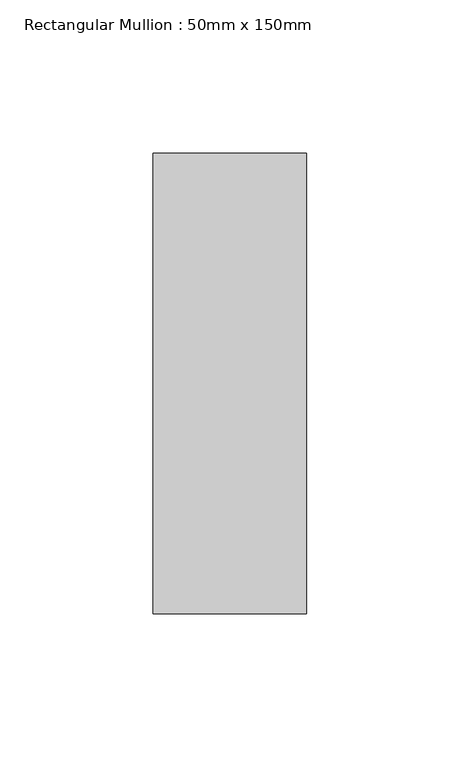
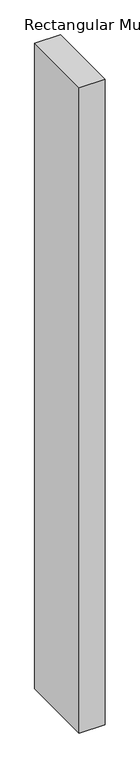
"""IFC4 building model written with IfcOpenShell, lengths in millimetres: member geometry, Rectangular Mullion : 50mm x 150mm."""

from ifc_helpers import new_model, si_unit, frame, origin, place, context, project, spatial, polyline, outline, extrude, source, transform, mapped, element, save


def rectangular_mullion_50mm_x_150mm_cb05066b(model_context):
    return source(origin(), model_context, "Body", "SweptSolid", [
        extrude(outline(polyline([(0.0, 75.0), (0.0, -75.0), (-50.0, -75.0), (-50.0, 75.0), (0.0, 75.0)])), frame((0.0, 0.0, -1327.8178267), z_axis=(0.0, 0.0, 1.0), x_axis=(1.0, 0.0, 0.0)), (0.0, 0.0, 1.0), 1327.8178267),
    ])


if __name__ == "__main__":
    model = new_model("IFC4")
    model_context = context("Model", 3, world=origin())
    ifc_project = project(units=[si_unit("LENGTHUNIT", "METRE", prefix="MILLI")], contexts=[model_context])
    site = spatial("IfcSite", under=ifc_project)
    building = spatial("IfcBuilding", under=site)
    placement = place(None, origin())
    rectangular_mullion_50mm_x_150mm_shape = rectangular_mullion_50mm_x_150mm_cb05066b(model_context)
    element("IfcMember", 1, ObjectType="Rectangular Mullion : 50mm x 150mm", at=placement, inside=building, context=model_context, shape_type="MappedRepresentation", body=[
        mapped(rectangular_mullion_50mm_x_150mm_shape, transform((0.0, 0.0, 0.0), x_axis=(1.0, 0.0, 0.0), y_axis=(0.0, 1.0, 0.0), z_axis=(0.0, 0.0, 1.0))),
    ])
    save(model, "model.ifc")
